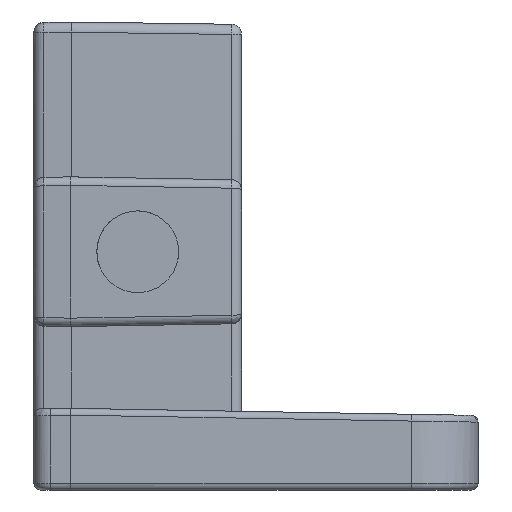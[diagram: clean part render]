
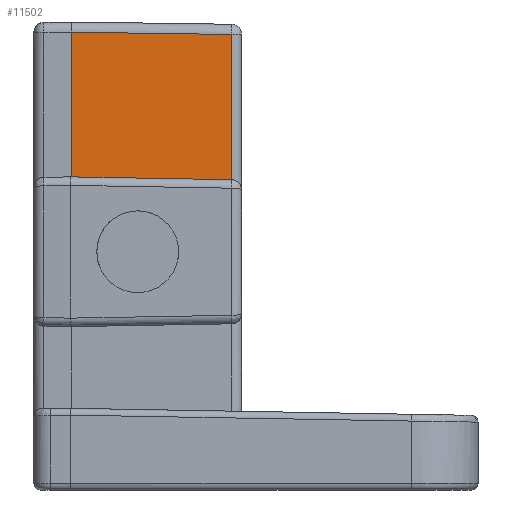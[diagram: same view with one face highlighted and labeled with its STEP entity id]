
A CAD part, front view. The second image highlights one B-rep face of the part: STEP entity #11502.
In plain terms, the highlighted planar face has unit normal (0.014, -1, 0).
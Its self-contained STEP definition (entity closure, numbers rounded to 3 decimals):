
#4969=DIRECTION('',(0.,0.,1.));
#4970=VECTOR('',#4969,4.267);
#4971=CARTESIAN_POINT('',(2.755,-10.434,2.118));
#4972=LINE('',#4971,#4970);
#4976=DIRECTION('',(1.,0.014,-0.017));
#4977=VECTOR('',#4976,4.713);
#4978=CARTESIAN_POINT('',(-1.957,-10.5,2.2));
#4979=LINE('',#4978,#4977);
#4983=DIRECTION('',(0.,0.,1.));
#4984=VECTOR('',#4983,4.25);
#4985=CARTESIAN_POINT('',(-1.957,-10.5,2.2));
#4986=LINE('',#4985,#4984);
#4990=DIRECTION('',(-1.,-0.014,0.014));
#4991=VECTOR('',#4990,4.712);
#4992=CARTESIAN_POINT('',(2.754,-10.434,6.384));
#4993=LINE('',#4992,#4991);
#6822=CARTESIAN_POINT('',(-1.957,-10.5,6.45));
#6824=VERTEX_POINT('',#6822);
#6830=CARTESIAN_POINT('',(2.754,-10.434,6.384));
#6831=VERTEX_POINT('',#6830);
#6908=CARTESIAN_POINT('',(2.755,-10.434,2.118));
#6910=VERTEX_POINT('',#6908);
#7052=CARTESIAN_POINT('',(-1.957,-10.5,2.2));
#7053=VERTEX_POINT('',#7052);
#11488=CARTESIAN_POINT('',(-1.957,-10.5,-7.));
#11489=DIRECTION('',(-0.014,1.,0.));
#11490=DIRECTION('',(0.,0.,1.));
#11491=AXIS2_PLACEMENT_3D('',#11488,#11489,#11490);
#11492=PLANE('',#11491);
#11493=ORIENTED_EDGE('',*,*,#11479,.F.);
#11495=ORIENTED_EDGE('',*,*,#11494,.F.);
#11497=ORIENTED_EDGE('',*,*,#11496,.T.);
#11499=ORIENTED_EDGE('',*,*,#11498,.F.);
#11500=EDGE_LOOP('',(#11493,#11495,#11497,#11499));
#11501=FACE_OUTER_BOUND('',#11500,.F.);
#11502=ADVANCED_FACE('',(#11501),#11492,.F.);
#11479=EDGE_CURVE('',#6910,#6831,#4972,.T.);
#11494=EDGE_CURVE('',#7053,#6910,#4979,.T.);
#11496=EDGE_CURVE('',#7053,#6824,#4986,.T.);
#11498=EDGE_CURVE('',#6831,#6824,#4993,.T.);
